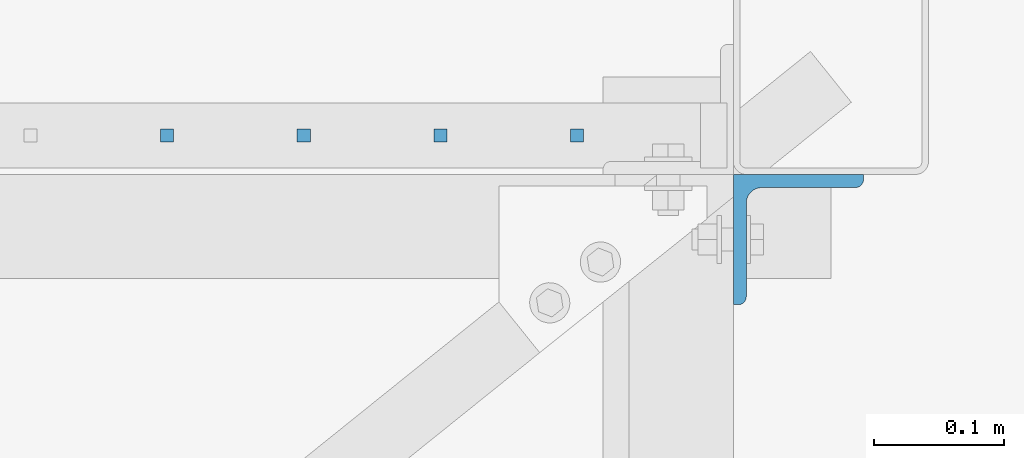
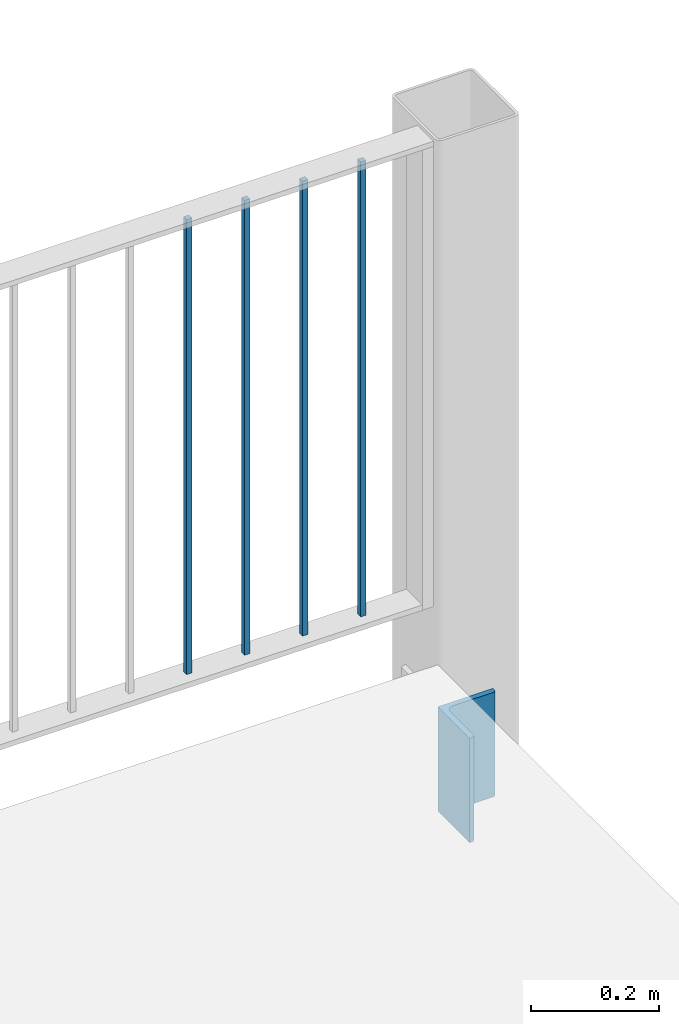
# One storey, part 56 of 78: 5 beams, 2 elements without a shape of their own.
"""IFC2X3 building model written with IfcOpenShell, lengths in millimetres."""

from ifc_helpers import new_model, si_unit, frame, origin_with_axes, origin_2d_with_axis, place, context, subcontext, project, spatial, rectangle, l_section, extrude, clip, halfspace, material, type_object, element, aggregate, save


model = new_model("IFC2X3")

# Units and contexts
model_context = context("Model", 3, precision=1e-05, world=origin_with_axes())
body_context = subcontext(model_context, "Body", "Model", "MODEL_VIEW")
ifc_project = project(units=[si_unit("LENGTHUNIT", "METRE", prefix="MILLI"), si_unit("AREAUNIT", "SQUARE_METRE"), si_unit("VOLUMEUNIT", "CUBIC_METRE"), si_unit("MASSUNIT", "GRAM", prefix="KILO"), si_unit("TIMEUNIT", "SECOND"), si_unit("PLANEANGLEUNIT", "RADIAN"), si_unit("SOLIDANGLEUNIT", "STERADIAN"), si_unit("THERMODYNAMICTEMPERATUREUNIT", "DEGREE_CELSIUS"), si_unit("LUMINOUSINTENSITYUNIT", "LUMEN")], contexts=[model_context])

# Site, building, storey
site_placement = place(None, origin_with_axes())
site = spatial("IfcSite", under=ifc_project, at=site_placement, Name="Site", CompositionType="ELEMENT")
building_placement = place(site_placement, origin_with_axes())
building = spatial("IfcBuilding", under=site, at=building_placement, Name="Undefined", CompositionType="ELEMENT")
storey_placement = place(building_placement, origin_with_axes())
storey = spatial("IfcBuildingStorey", under=building, at=storey_placement, Name="Undefined", CompositionType="ELEMENT", Elevation=0.0)

# Assembly, beams
assembly_1_placement = place(storey_placement, origin_with_axes())
assembly_1 = element("IfcElementAssembly", 1, at=assembly_1_placement, inside=storey, Name="MAIN_COURANTE", AssemblyPlace="NOTDEFINED", PredefinedType="RIGID_FRAME")
ifc_material = material(Name="STEEL/S235JR")
beam_type_1 = type_object("IfcBeamType", Name="PL10*10", PredefinedType="NOTDEFINED")
beam_1_placement = place(assembly_1_placement, frame((3688.57, 32872.9999999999, 157695.04), z_axis=(0.0, -1.0, 0.0), x_axis=(0.0, 0.0, -1.0)))
beam_1 = element("IfcBeam", 2, at=beam_1_placement, type_object=beam_type_1, material=ifc_material, Name="LISSE", ObjectType="PL10*10", context=body_context, shape_type="Clipping", body=[
    clip(clip(extrude(rectangle(XDim=10.0, YDim=10.0, at=origin_2d_with_axis()), frame((880.0, 0.0, 0.0), z_axis=(-1.0, 0.0, 0.0), x_axis=(0.0, -1.0, 0.0)), (0.0, 0.0, 1.0), 880.0), halfspace(frame((875.0, 0.0, 1005.0), z_axis=(1.0, 0.0, 0.0), x_axis=(0.0, 1.0, 0.0)), False)), halfspace(frame((5.0, 0.0, 1005.0), z_axis=(-1.0, 0.0, 0.0), x_axis=(0.0, -1.0, 0.0)), False)),
])
beam_2_placement = place(assembly_1_placement, frame((3793.57, 32872.9999999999, 157695.04), z_axis=(0.0, -1.0, 0.0), x_axis=(0.0, 0.0, -1.0)))
beam_2 = element("IfcBeam", 3, at=beam_2_placement, type_object=beam_type_1, material=ifc_material, Name="LISSE", ObjectType="PL10*10", context=body_context, shape_type="Clipping", body=[
    clip(clip(extrude(rectangle(XDim=10.0, YDim=10.0, at=origin_2d_with_axis()), frame((880.0, 0.0, 0.0), z_axis=(-1.0, 0.0, 0.0), x_axis=(0.0, -1.0, 0.0)), (0.0, 0.0, 1.0), 880.0), halfspace(frame((875.0, 0.0, 1005.0), z_axis=(1.0, 0.0, 0.0), x_axis=(0.0, 1.0, 0.0)), False)), halfspace(frame((5.0, 0.0, 1005.0), z_axis=(-1.0, 0.0, 0.0), x_axis=(0.0, -1.0, 0.0)), False)),
])
beam_3_placement = place(assembly_1_placement, frame((3898.57, 32872.9999999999, 157695.04), z_axis=(0.0, -1.0, 0.0), x_axis=(0.0, 0.0, -1.0)))
beam_3 = element("IfcBeam", 4, at=beam_3_placement, type_object=beam_type_1, material=ifc_material, Name="LISSE", ObjectType="PL10*10", context=body_context, shape_type="Clipping", body=[
    clip(clip(extrude(rectangle(XDim=10.0, YDim=10.0, at=origin_2d_with_axis()), frame((880.0, 0.0, 0.0), z_axis=(-1.0, 0.0, 0.0), x_axis=(0.0, -1.0, 0.0)), (0.0, 0.0, 1.0), 880.0), halfspace(frame((875.0, 0.0, 1005.0), z_axis=(1.0, 0.0, 0.0), x_axis=(0.0, 1.0, 0.0)), False)), halfspace(frame((5.0, 0.0, 1005.0), z_axis=(-1.0, 0.0, 0.0), x_axis=(0.0, -1.0, 0.0)), False)),
])
beam_4_placement = place(assembly_1_placement, frame((4003.57, 32872.9999999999, 157695.04), z_axis=(0.0, -1.0, 0.0), x_axis=(0.0, 0.0, -1.0)))
beam_4 = element("IfcBeam", 5, at=beam_4_placement, type_object=beam_type_1, material=ifc_material, Name="LISSE", ObjectType="PL10*10", context=body_context, shape_type="Clipping", body=[
    clip(clip(extrude(rectangle(XDim=10.0, YDim=10.0, at=origin_2d_with_axis()), frame((880.0, 0.0, 0.0), z_axis=(-1.0, 0.0, 0.0), x_axis=(0.0, -1.0, 0.0)), (0.0, 0.0, 1.0), 880.0), halfspace(frame((875.0, 0.0, 1005.0), z_axis=(1.0, 0.0, 0.0), x_axis=(0.0, 1.0, 0.0)), False)), halfspace(frame((5.0, 0.0, 1005.0), z_axis=(-1.0, 0.0, 0.0), x_axis=(0.0, -1.0, 0.0)), False)),
])
aggregate(assembly_1, [beam_1, beam_2, beam_3, beam_4])

# Assembly, beam
assembly_2_placement = place(storey_placement, origin_with_axes())
assembly_2 = element("IfcElementAssembly", 6, at=assembly_2_placement, inside=storey, Name="POTEAU", AssemblyPlace="NOTDEFINED", PredefinedType="RIGID_FRAME")
beam_type_2 = type_object("IfcBeamType", Name="L100*10", PredefinedType="NOTDEFINED")
beam_5_placement = place(assembly_2_placement, frame((4173.56999999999, 32793.0, 156620.0400002), z_axis=(1.0, 0.0, 0.0), x_axis=(0.0, 0.0, -1.0)))
beam_5 = element("IfcBeam", 7, at=beam_5_placement, type_object=beam_type_2, material=ifc_material, Name="CORNIERE", ObjectType="L100*10", context=body_context, shape_type="SweptSolid", body=[
    extrude(l_section(Depth=100.0, Width=100.0, Thickness=10.0, FilletRadius=12.0, EdgeRadius=6.0, at=origin_2d_with_axis()), frame((200.0, 0.0, 0.0), z_axis=(-1.0, 0.0, 0.0), x_axis=(0.0, -1.0, 0.0)), (0.0, 0.0, 1.0), 200.0),
])
aggregate(assembly_2, [beam_5])

save(model, "model.ifc")
